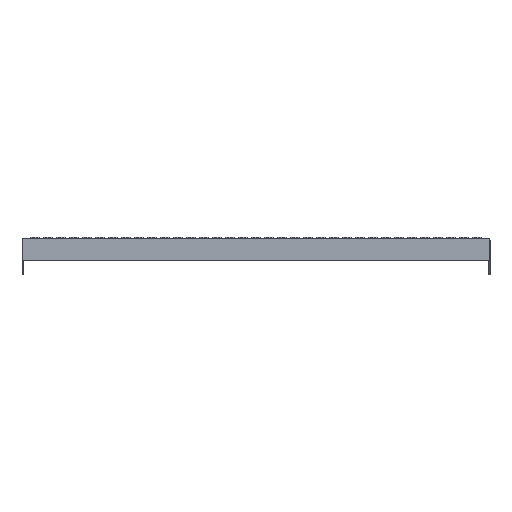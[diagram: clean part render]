
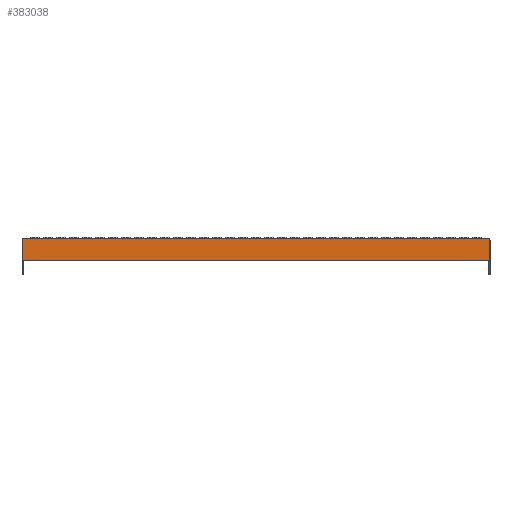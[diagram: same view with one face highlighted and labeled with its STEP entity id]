
A CAD part, front view. The second image highlights one B-rep face of the part: STEP entity #383038.
In plain terms, the highlighted planar face has unit normal (0, -1, 0).
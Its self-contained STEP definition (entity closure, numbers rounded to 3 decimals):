
#383038 = ADVANCED_FACE('',(#383039),#383053,.T.);
#383039 = FACE_BOUND('',#383040,.T.);
#383040 = EDGE_LOOP('',(#383041,#383064,#383080,#383096));
#383041 = ORIENTED_EDGE('',*,*,#383042,.T.);
#383042 = EDGE_CURVE('',#383043,#383045,#383047,.T.);
#383043 = VERTEX_POINT('',#383044);
#383044 = CARTESIAN_POINT('',(6900.,8745.,
    0.));
#383045 = VERTEX_POINT('',#383046);
#383046 = CARTESIAN_POINT('',(6000.,8745.,
    0.));
#383047 = SURFACE_CURVE('',#383048,(#383052),.PCURVE_S1.);
#383048 = LINE('',#383049,#383050);
#383049 = CARTESIAN_POINT('',(6900.,8745.,
    0.));
#383050 = VECTOR('',#383051,1.);
#383051 = DIRECTION('',(-1.,0.,0.));
#383052 = PCURVE('',#383053,#383058);
#383053 = PLANE('',#383054);
#383054 = AXIS2_PLACEMENT_3D('',#383055,#383056,#383057);
#383055 = CARTESIAN_POINT('',(6450.,8745.,
    -21.25));
#383056 = DIRECTION('',(-0.,-1.,-0.));
#383057 = DIRECTION('',(0.,0.,-1.));
#383058 = DEFINITIONAL_REPRESENTATION('',(#383059),#383063);
#383059 = LINE('',#383060,#383061);
#383060 = CARTESIAN_POINT('',(-21.25,450.));
#383061 = VECTOR('',#383062,1.);
#383062 = DIRECTION('',(0.,-1.));
#383063 = ( GEOMETRIC_REPRESENTATION_CONTEXT(2) 
PARAMETRIC_REPRESENTATION_CONTEXT() REPRESENTATION_CONTEXT('2D SPACE',''
  ) );
#383064 = ORIENTED_EDGE('',*,*,#383065,.T.);
#383065 = EDGE_CURVE('',#383045,#383066,#383068,.T.);
#383066 = VERTEX_POINT('',#383067);
#383067 = CARTESIAN_POINT('',(6000.,8745.,-42.5)
  );
#383068 = SURFACE_CURVE('',#383069,(#383073),.PCURVE_S1.);
#383069 = LINE('',#383070,#383071);
#383070 = CARTESIAN_POINT('',(6000.,8745.,
    0.));
#383071 = VECTOR('',#383072,1.);
#383072 = DIRECTION('',(0.,0.,-1.));
#383073 = PCURVE('',#383053,#383074);
#383074 = DEFINITIONAL_REPRESENTATION('',(#383075),#383079);
#383075 = LINE('',#383076,#383077);
#383076 = CARTESIAN_POINT('',(-21.25,-450.));
#383077 = VECTOR('',#383078,1.);
#383078 = DIRECTION('',(1.,0.));
#383079 = ( GEOMETRIC_REPRESENTATION_CONTEXT(2) 
PARAMETRIC_REPRESENTATION_CONTEXT() REPRESENTATION_CONTEXT('2D SPACE',''
  ) );
#383080 = ORIENTED_EDGE('',*,*,#383081,.T.);
#383081 = EDGE_CURVE('',#383066,#383082,#383084,.T.);
#383082 = VERTEX_POINT('',#383083);
#383083 = CARTESIAN_POINT('',(6900.,8745.,
    -42.5));
#383084 = SURFACE_CURVE('',#383085,(#383089),.PCURVE_S1.);
#383085 = LINE('',#383086,#383087);
#383086 = CARTESIAN_POINT('',(6000.,8745.,-42.5)
  );
#383087 = VECTOR('',#383088,1.);
#383088 = DIRECTION('',(1.,0.,0.));
#383089 = PCURVE('',#383053,#383090);
#383090 = DEFINITIONAL_REPRESENTATION('',(#383091),#383095);
#383091 = LINE('',#383092,#383093);
#383092 = CARTESIAN_POINT('',(21.25,-450.));
#383093 = VECTOR('',#383094,1.);
#383094 = DIRECTION('',(0.,1.));
#383095 = ( GEOMETRIC_REPRESENTATION_CONTEXT(2) 
PARAMETRIC_REPRESENTATION_CONTEXT() REPRESENTATION_CONTEXT('2D SPACE',''
  ) );
#383096 = ORIENTED_EDGE('',*,*,#383097,.T.);
#383097 = EDGE_CURVE('',#383082,#383043,#383098,.T.);
#383098 = SURFACE_CURVE('',#383099,(#383103),.PCURVE_S1.);
#383099 = LINE('',#383100,#383101);
#383100 = CARTESIAN_POINT('',(6900.,8745.,
    -42.5));
#383101 = VECTOR('',#383102,1.);
#383102 = DIRECTION('',(0.,0.,1.));
#383103 = PCURVE('',#383053,#383104);
#383104 = DEFINITIONAL_REPRESENTATION('',(#383105),#383109);
#383105 = LINE('',#383106,#383107);
#383106 = CARTESIAN_POINT('',(21.25,450.));
#383107 = VECTOR('',#383108,1.);
#383108 = DIRECTION('',(-1.,0.));
#383109 = ( GEOMETRIC_REPRESENTATION_CONTEXT(2) 
PARAMETRIC_REPRESENTATION_CONTEXT() REPRESENTATION_CONTEXT('2D SPACE',''
  ) );
